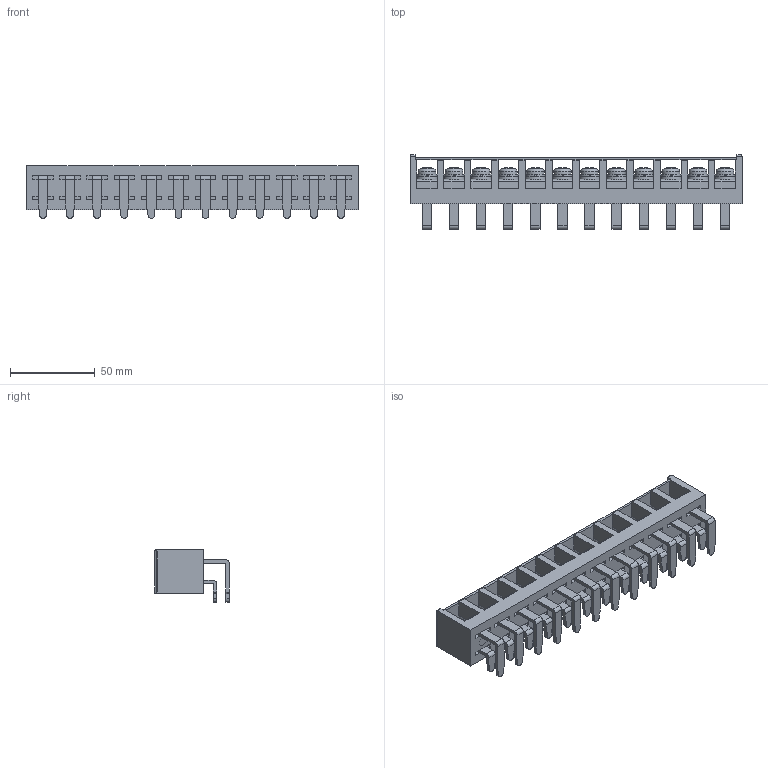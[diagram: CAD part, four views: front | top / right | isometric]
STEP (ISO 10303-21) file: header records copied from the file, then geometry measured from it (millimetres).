
FILE_DESCRIPTION(/* description */ ('Alibre Inc.'),/* implementation_level */ '2;1');
FILE_NAME(/* name */ 'export-BB23A8DA-B826-46DE-B577-01BAB93A5ED2',/* time_stamp */ '2025-01-30T14:45:40+09:00',/* author */ (''),/* organization */ (''),/* preprocessor_version */ 'ST-DEVELOPER v17',/* originating_system */ 'Alibre',/* authorisation */ '');
FILE_SCHEMA (('CONFIG_CONTROL_DESIGN'));
Length unit declared in the file: millimetre
Bounding box: 196 x 44.1 x 31 mm (x, y, z)
Volume: 98984.9 mm3; surface area: 57350.1 mm2
Topology: 1 solids, 2 shells, 1452 faces, 4134 edges, 2693 vertices
Faces by surface type: plane 1033, cylinder 196, bspline 150, cone 49, torus 12, sphere 12
Full cylindrical faces by diameter (mm): 6 x1, 10.5 x12, 12.5 x11
Entity records: 43552 total; most frequent: CARTESIAN_POINT 9346, ORIENTED_EDGE 8148, DIRECTION 5341, EDGE_CURVE 4074, VERTEX_POINT 2670, VECTOR 2629, LINE 2629, AXIS2_PLACEMENT_3D 1767
